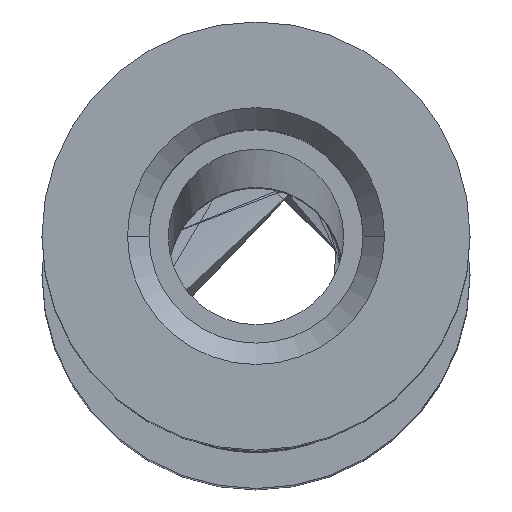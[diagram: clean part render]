
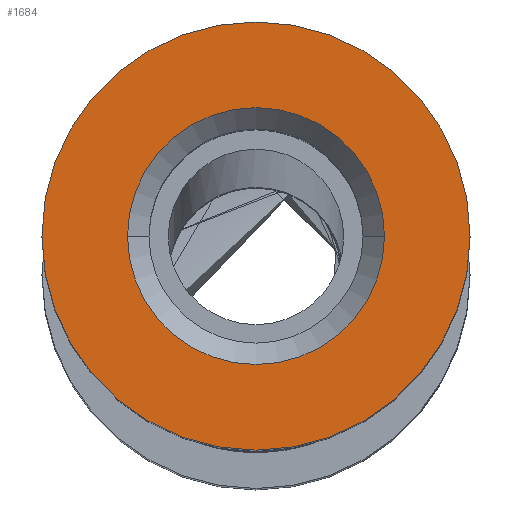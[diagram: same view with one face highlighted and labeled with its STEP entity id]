
A CAD part, top view. The second image highlights one B-rep face of the part: STEP entity #1684.
In plain terms, the highlighted planar face has unit normal (0, 0, 1).
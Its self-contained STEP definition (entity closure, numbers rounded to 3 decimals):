
#434 = CARTESIAN_POINT ( 'NONE',  ( -158.333, 0., 160.133 ) ) ;
#691 = CARTESIAN_POINT ( 'NONE',  ( -163.133, 0., 160.133 ) ) ;
#932 = CARTESIAN_POINT ( 'NONE',  ( -160.133, 0., 160.133 ) ) ;
#1239 = DIRECTION ( 'NONE',  ( 0., 0., -1. ) ) ;
#1684 = ADVANCED_FACE ( 'NONE', ( #19413, #11188 ), #12886, .F. ) ;
#2547 = DIRECTION ( 'NONE',  ( 0., 0., -1. ) ) ;
#2608 = DIRECTION ( 'NONE',  ( 0., 0., -1. ) ) ;
#2854 = CARTESIAN_POINT ( 'NONE',  ( -160.133, 0., 160.133 ) ) ;
#4102 = EDGE_CURVE ( 'NONE', #14544, #14943, #13022, .T. ) ;
#5361 = CIRCLE ( 'NONE', #12468, 3. ) ;
#6918 = EDGE_CURVE ( 'NONE', #18800, #18174, #5361, .T. ) ;
#7704 = ORIENTED_EDGE ( 'NONE', *, *, #19075, .T. ) ;
#7933 = AXIS2_PLACEMENT_3D ( 'NONE', #18263, #13232, #17004 ) ;
#8708 = CARTESIAN_POINT ( 'NONE',  ( -157.133, 0., 160.133 ) ) ;
#9042 = AXIS2_PLACEMENT_3D ( 'NONE', #12237, #2608, #20096 ) ;
#10896 = EDGE_LOOP ( 'NONE', ( #16301, #7704 ) ) ;
#11188 = FACE_OUTER_BOUND ( 'NONE', #12687, .T. ) ;
#12237 = CARTESIAN_POINT ( 'NONE',  ( -160.133, 0., 160.133 ) ) ;
#12468 = AXIS2_PLACEMENT_3D ( 'NONE', #932, #2547, #13709 ) ;
#12687 = EDGE_LOOP ( 'NONE', ( #18346, #13361 ) ) ;
#12886 = PLANE ( 'NONE',  #7933 ) ;
#13022 = CIRCLE ( 'NONE', #20168, 1.8 ) ;
#13232 = DIRECTION ( 'NONE',  ( 0., 0., -1. ) ) ;
#13313 = AXIS2_PLACEMENT_3D ( 'NONE', #2854, #1239, #15539 ) ;
#13361 = ORIENTED_EDGE ( 'NONE', *, *, #6918, .F. ) ;
#13709 = DIRECTION ( 'NONE',  ( -1., 0., 0. ) ) ;
#14544 = VERTEX_POINT ( 'NONE', #434 ) ;
#14943 = VERTEX_POINT ( 'NONE', #16558 ) ;
#15539 = DIRECTION ( 'NONE',  ( -1., 0., 0. ) ) ;
#16301 = ORIENTED_EDGE ( 'NONE', *, *, #4102, .T. ) ;
#16558 = CARTESIAN_POINT ( 'NONE',  ( -161.933, 0., 160.133 ) ) ;
#16597 = DIRECTION ( 'NONE',  ( 0., 0., -1. ) ) ;
#16653 = CIRCLE ( 'NONE', #13313, 1.8 ) ;
#16673 = CARTESIAN_POINT ( 'NONE',  ( -160.133, 0., 160.133 ) ) ;
#17004 = DIRECTION ( 'NONE',  ( -1., 0., 0. ) ) ;
#17896 = CIRCLE ( 'NONE', #9042, 3. ) ;
#18174 = VERTEX_POINT ( 'NONE', #691 ) ;
#18263 = CARTESIAN_POINT ( 'NONE',  ( -160.133, 3., 160.133 ) ) ;
#18346 = ORIENTED_EDGE ( 'NONE', *, *, #19913, .F. ) ;
#18427 = DIRECTION ( 'NONE',  ( -1., 0., 0. ) ) ;
#18800 = VERTEX_POINT ( 'NONE', #8708 ) ;
#19075 = EDGE_CURVE ( 'NONE', #14943, #14544, #16653, .T. ) ;
#19413 = FACE_BOUND ( 'NONE', #10896, .T. ) ;
#19913 = EDGE_CURVE ( 'NONE', #18174, #18800, #17896, .T. ) ;
#20096 = DIRECTION ( 'NONE',  ( -1., 0., 0. ) ) ;
#20168 = AXIS2_PLACEMENT_3D ( 'NONE', #16673, #16597, #18427 ) ;
